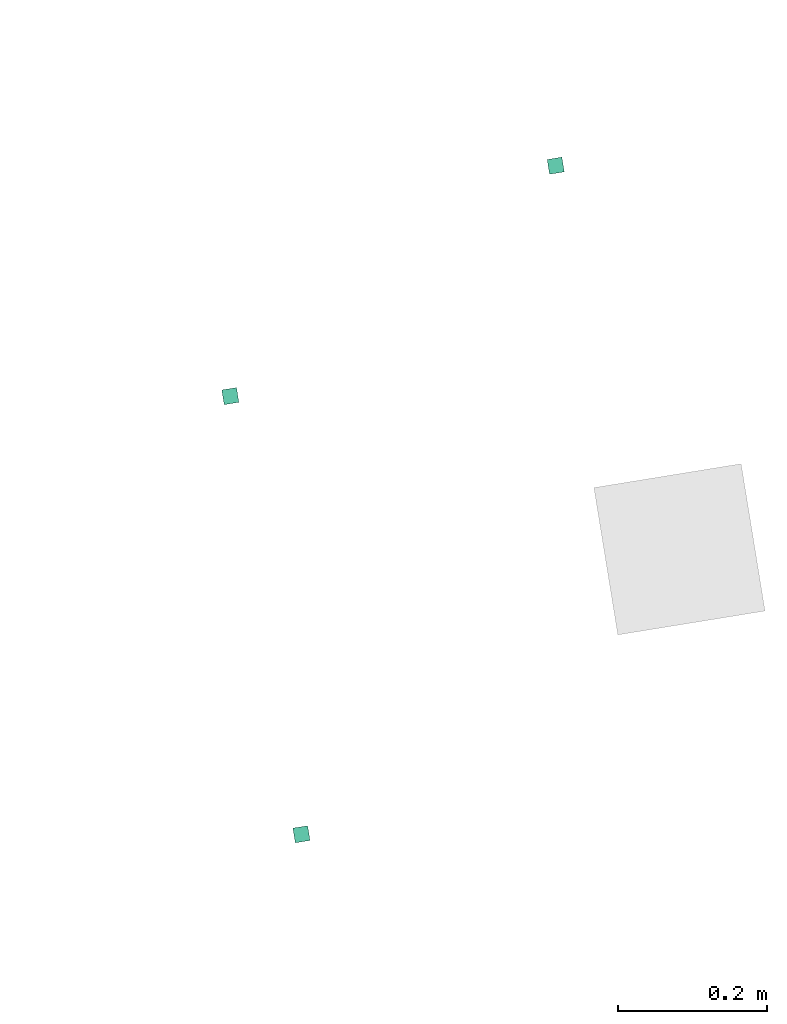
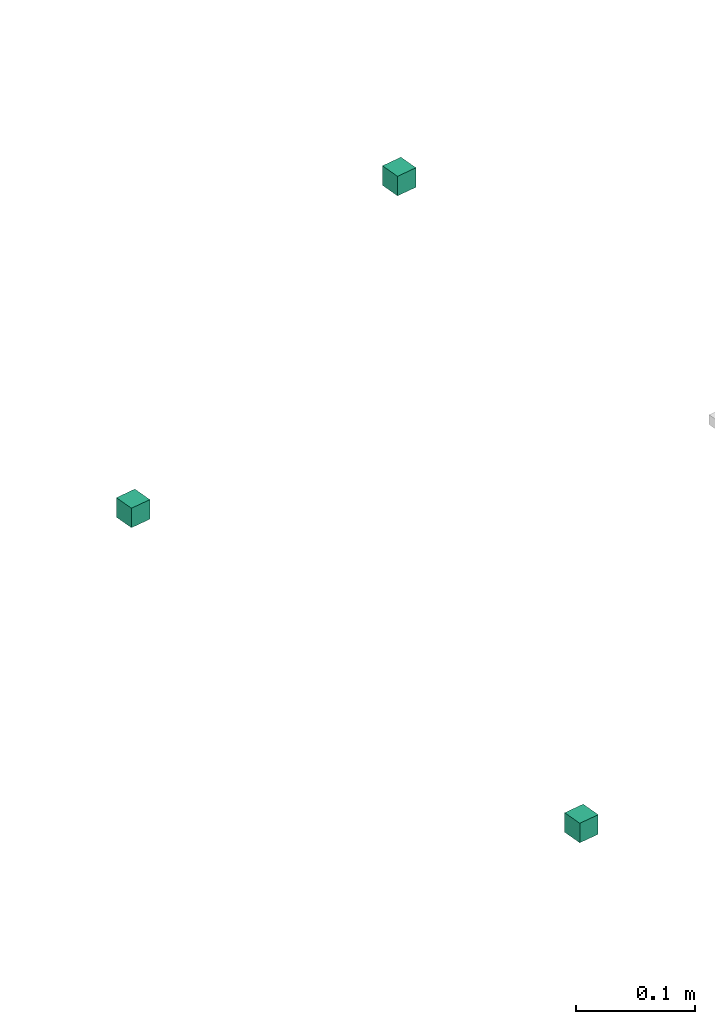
# One storey, part 8 of 11: 3 flow terminals.
"""IFC2X3 building model written with IfcOpenShell, lengths in millimetres."""

from ifc_helpers import new_model, entity, si_unit, converted_unit, derived_unit, direction, frame, origin, origin_with_axes, origin_2d_with_axis, place, context, subcontext, project, spatial, rectangle, extrude, source, transform, mapped, material, type_object, element, save


model = new_model("IFC2X3")

# Units and contexts
plan_context = context("Plan", 3, precision=1e-05, world=origin_with_axes())
model_context = context("Model", 3, precision=0.01, world=origin(), true_north=direction((6.12323399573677e-17, 1.0)))
body_context = subcontext(model_context, "Body", "Model", "MODEL_VIEW")
ifc_project = project(units=[converted_unit("PLANEANGLEUNIT", "DEGREE", entity("IfcPositiveLengthMeasure", 0.0174532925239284), si_unit("PLANEANGLEUNIT", "RADIAN"), dimensions=[0, 0, 0, 0, 0, 0, 0]), si_unit("AREAUNIT", "SQUARE_METRE"), si_unit("LENGTHUNIT", "METRE", prefix="MILLI"), si_unit("MASSUNIT", "GRAM", prefix="KILO"), si_unit("POWERUNIT", "WATT"), si_unit("PRESSUREUNIT", "PASCAL", prefix="KILO"), si_unit("FORCEUNIT", "NEWTON", prefix="KILO"), si_unit("ELECTRICVOLTAGEUNIT", "VOLT"), si_unit("ELECTRICCURRENTUNIT", "AMPERE"), si_unit("THERMODYNAMICTEMPERATUREUNIT", "DEGREE_CELSIUS"), si_unit("TIMEUNIT", "SECOND"), si_unit("VOLUMEUNIT", "CUBIC_METRE"), derived_unit("LINEARVELOCITYUNIT", [(si_unit("LENGTHUNIT", "METRE"), 1), (si_unit("TIMEUNIT", "SECOND"), -1)]), derived_unit("VOLUMETRICFLOWRATEUNIT", [(si_unit("VOLUMEUNIT", "CUBIC_METRE"), 1), (si_unit("TIMEUNIT", "SECOND"), -1)]), derived_unit("THERMALTRANSMITTANCEUNIT", [(si_unit("POWERUNIT", "WATT"), 1), (si_unit("THERMODYNAMICTEMPERATUREUNIT", "KELVIN"), -1), (si_unit("AREAUNIT", "SQUARE_METRE"), -1)]), derived_unit("SOUNDPRESSUREUNIT", [(si_unit("PRESSUREUNIT", "PASCAL"), 1)])], contexts=[model_context, plan_context])

# Site, building, storey
site_placement = place(None, frame((-0.000710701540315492, 0.00438415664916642, 0.0), z_axis=(0.0, 0.0, 1.0), x_axis=(-0.160236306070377, 0.987078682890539, 0.0)))
site = spatial("IfcSite", under=ifc_project, at=site_placement, Name="Default", CompositionType="ELEMENT")
building_placement = place(site_placement, origin_with_axes())
building = spatial("IfcBuilding", under=site, at=building_placement, CompositionType="ELEMENT")
storey_placement = place(building_placement, frame((0.0, 0.0, 58999.9999999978), z_axis=(0.0, 0.0, 1.0), x_axis=(1.0, 0.0, 0.0)))
storey = spatial("IfcBuildingStorey", under=building, at=storey_placement, Name="Nivå F", CompositionType="ELEMENT", Elevation=58999.9999999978)

# Flow terminals
ifc_material = material(Name="<Unnamed>")
distribution_element_type_1 = type_object("IfcDistributionElementType", Name="PLUMBING FIXTURE - Ghost object -:VARMTVANNSBEREDER -  - NW501T", material=ifc_material)
shared_shape = source(origin(), body_context, "Body", "SweptSolid", [
    extrude(rectangle(XDim=20.0, YDim=20.0, at=origin_2d_with_axis()), frame((0.0, 0.0, 0.0), z_axis=(0.0, 0.0, 1.0), x_axis=(0.0, 1.0, 0.0)), (0.0, 0.0, 1.0), 20.0),
])
flow_terminal_1_placement = place(storey_placement, frame((781717.619644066, -501782.480498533, 0.0), z_axis=(0.0, 0.0, 1.0), x_axis=(1.0, 0.0, 0.0)))
element("IfcFlowTerminal", 1, at=flow_terminal_1_placement, inside=storey, type_object=distribution_element_type_1, material=ifc_material, Name="PLUMBING FIXTURE - Ghost object -:VARMTVANNSBEREDER -  - NW501T", ObjectType="PLUMBING FIXTURE - Ghost object -:VARMTVANNSBEREDER -  - NW501T", context=body_context, shape_type="MappedRepresentation", body=[
    mapped(shared_shape, transform((0.0, 0.0, 0.0), scale=1.0)),
])
distribution_element_type_2 = type_object("IfcDistributionElementType", Name="PLUMBING FIXTURE - Ghost object -:ARMATUR -  - UB509T", material=ifc_material)
flow_terminal_2_placement = place(storey_placement, frame((781482.619644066, -501302.480498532, 0.0), z_axis=(0.0, 0.0, 1.0), x_axis=(1.0, 0.0, 0.0)))
element("IfcFlowTerminal", 2, at=flow_terminal_2_placement, inside=storey, type_object=distribution_element_type_2, material=ifc_material, Name="PLUMBING FIXTURE - Ghost object -:ARMATUR -  - UB509T", ObjectType="PLUMBING FIXTURE - Ghost object -:ARMATUR -  - UB509T", context=body_context, shape_type="MappedRepresentation", body=[
    mapped(shared_shape, transform((0.0, 0.0, 0.0), scale=1.0)),
])
distribution_element_type_3 = type_object("IfcDistributionElementType", Name="PLUMBING FIXTURE - Ghost object -:ARMATUR -  - UB510T", material=ifc_material)
flow_terminal_3_placement = place(storey_placement, frame((780887.619644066, -501302.480498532, 0.0), z_axis=(0.0, 0.0, 1.0), x_axis=(1.0, 0.0, 0.0)))
element("IfcFlowTerminal", 3, at=flow_terminal_3_placement, inside=storey, type_object=distribution_element_type_3, material=ifc_material, Name="PLUMBING FIXTURE - Ghost object -:ARMATUR -  - UB510T", ObjectType="PLUMBING FIXTURE - Ghost object -:ARMATUR -  - UB510T", context=body_context, shape_type="MappedRepresentation", body=[
    mapped(shared_shape, transform((0.0, 0.0, 0.0), scale=1.0)),
])

save(model, "model.ifc")
